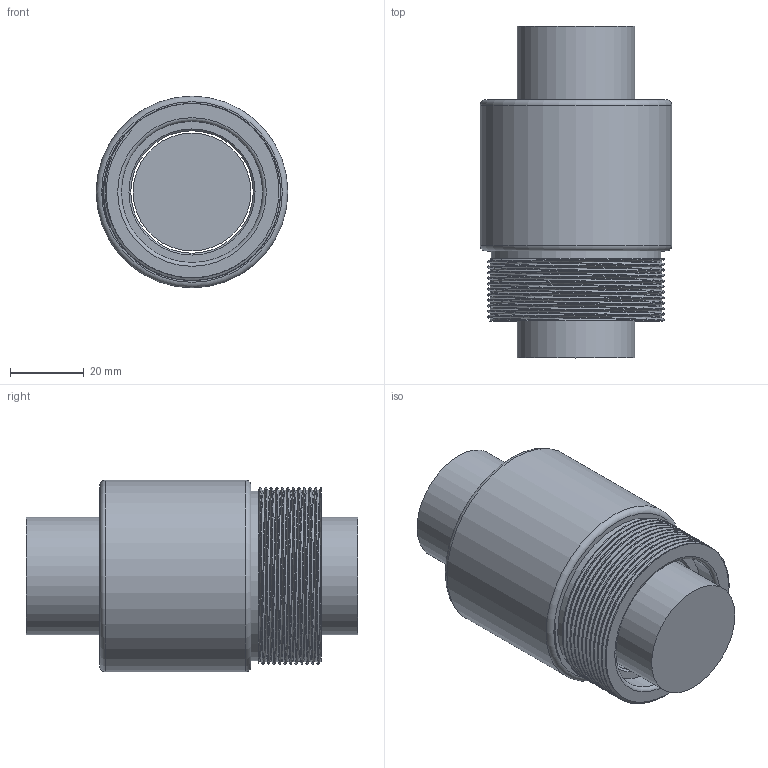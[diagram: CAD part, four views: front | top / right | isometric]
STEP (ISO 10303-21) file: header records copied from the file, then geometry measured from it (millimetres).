
FILE_DESCRIPTION(/* description */ (''),/* implementation_level */ '2;1');
FILE_NAME(/* name */ '3205.prt.step',/* time_stamp */ '2008-12-05T09:42:26+08:00',/* author */ (''),/* organization */ (''),/* preprocessor_version */ 'ST-DEVELOPER v11',/* originating_system */ 'SIEMENS UGS NX 6.0',/* authorisation */ '');
FILE_SCHEMA (('AUTOMOTIVE_DESIGN { 1 0 10303 214 1 1 1 1 }'));
Length unit declared in the file: millimetre
Products named in the file (1): 3205
Bounding box: 52 x 90 x 52 mm (x, y, z)
Volume: 136227.6 mm3; surface area: 30305.7 mm2
Topology: 2 solids, 2 shells, 27 faces, 51 edges, 33 vertices
Faces by surface type: plane 9, cylinder 8, bspline 4, torus 4, cone 2
Full cylindrical faces by diameter (mm): 31.95 x1, 33.2 x1, 38.3 x2, 46 x1, 52 x1
Entity records: 3553 total; most frequent: CARTESIAN_POINT 3055, DIRECTION 93, ORIENTED_EDGE 72, EDGE_LOOP 46, AXIS2_PLACEMENT_3D 46, FACE_BOUND 37, EDGE_CURVE 36, VERTEX_POINT 30
